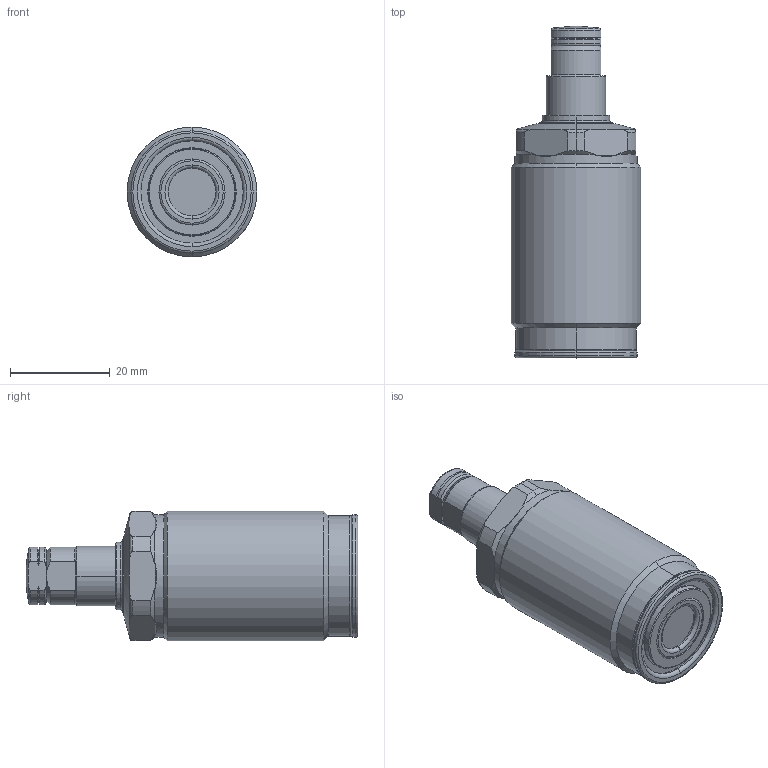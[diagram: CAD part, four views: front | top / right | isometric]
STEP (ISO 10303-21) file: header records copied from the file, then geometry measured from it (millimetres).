
FILE_DESCRIPTION(/* description */ (''),/* implementation_level */ '2;1');
FILE_NAME(/* name */ 'GSS00.stp',/* time_stamp */ '2025-01-05T13:23:56+08:00',/* author */ (''),/* organization */ (''),/* preprocessor_version */ 'ST-DEVELOPER v16.7',/* originating_system */ 'SIEMENS PLM Software NX 12.0',/* authorisation */ '');
FILE_SCHEMA (('AUTOMOTIVE_DESIGN { 1 0 10303 214 3 1 1 1 }'));
Length unit declared in the file: millimetre
Products named in the file (6): GSS00-05; GSS00-04; GSS00-03; GSS00-02; GSS00-01; TNC0403-x-E_step
Assembly tree (5 placements, depth 2):
  TNC0403-x-E_step
    GSS00-01
    GSS00-02
    GSS00-03
    GSS00-04
    GSS00-05
Bounding box: 26 x 66.5 x 26 mm (x, y, z)
Volume: 24764.9 mm3; surface area: 7132.5 mm2
Topology: 5 solids, 5 shells, 166 faces, 383 edges, 235 vertices
Faces by surface type: cylinder 48, torus 47, plane 35, cone 34, sphere 2
Full cylindrical faces by diameter (mm): 24.5 x1, 26 x1
Entity records: 5250 total; most frequent: CARTESIAN_POINT 1228, DIRECTION 898, ORIENTED_EDGE 770, AXIS2_PLACEMENT_3D 395, EDGE_CURVE 385, VERTEX_POINT 239, CIRCLE 217, EDGE_LOOP 182
